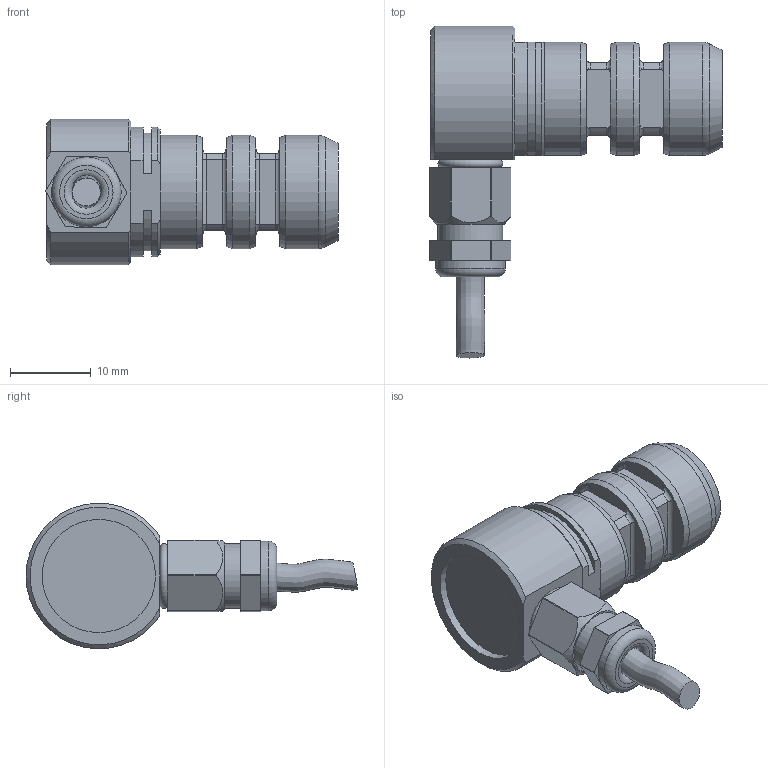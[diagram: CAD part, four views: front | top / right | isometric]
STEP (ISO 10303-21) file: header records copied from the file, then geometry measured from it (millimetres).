
FILE_DESCRIPTION(/* description */ ('Alibre Inc.'),/* implementation_level */ '2;1');
FILE_NAME(/* name */ 'export-F0CFA5CC-9E68-42A4-AC07-3EE55B805B57',/* time_stamp */ '2021-10-27T15:32:45+02:00',/* author */ (''),/* organization */ (''),/* preprocessor_version */ 'ST-DEVELOPER v17',/* originating_system */ 'Alibre',/* authorisation */ '');
FILE_SCHEMA (('CONFIG_CONTROL_DESIGN'));
Length unit declared in the file: millimetre
Products named in the file (8): ID_1
Bounding box: 36.1 x 41.01 x 17.99 mm (x, y, z)
Volume: 6694.4 mm3; surface area: 3815.7 mm2
Topology: 8 solids, 9 shells, 1928 faces, 5179 edges, 3439 vertices
Faces by surface type: plane 879, bspline 760, cylinder 250, torus 20, cone 12, sphere 7
Full cylindrical faces by diameter (mm): 3.5 x1, 5 x1, 6 x1, 8 x1, 8.6 x1, 14 x4
Entity records: 124707 total; most frequent: CARTESIAN_POINT 83767, ORIENTED_EDGE 10230, EDGE_CURVE 5115, DIRECTION 4488, VERTEX_POINT 3410, B_SPLINE_CURVE_WITH_KNOTS 2365, VECTOR 2246, LINE 2246
